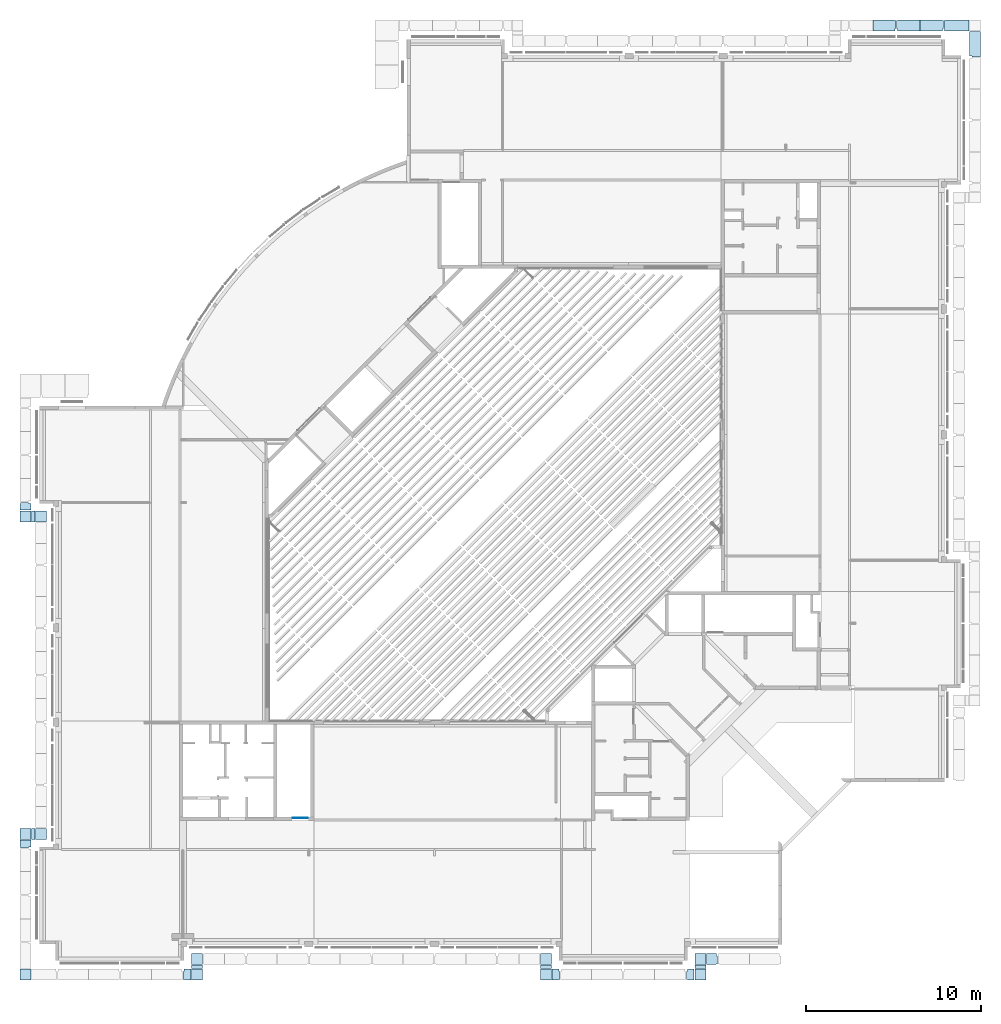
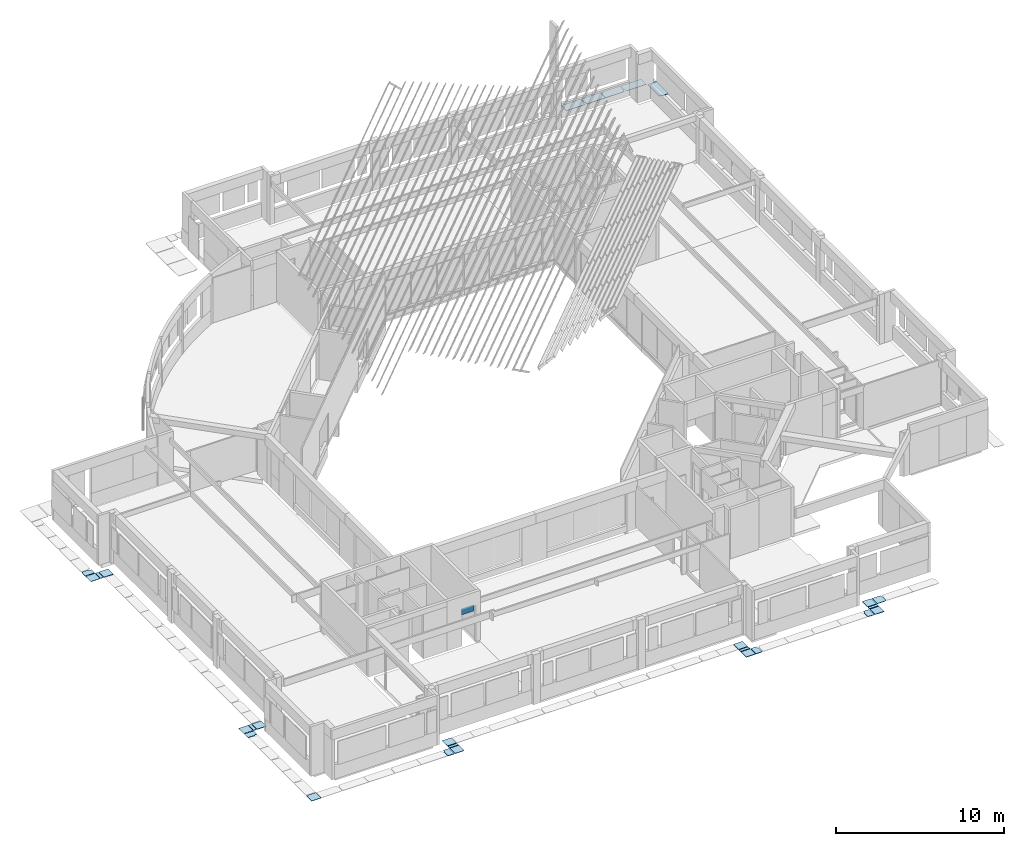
# One storey, part 22 of 37: 27 slabs, 1 plate.
"""IFC4X3_ADD2 building model written with IfcOpenShell, lengths in millimetres."""

import ifcopenshell
import ifcopenshell.guid

model = None  # the IFC model being written
_history = None  # IfcOwnerHistory: only IFC2X3 demands one
_inside = {}  # id of a spatial element -> (the spatial element, [elements in it])
_under = {}  # id of a project, library or spatial element -> (it, [spatial elements below it])
_declared = {}  # id of a project -> (the project, [libraries it declares])
_typed = {}  # id of a type object -> (the type object, [elements of that type])
_made_of = {}  # id of a material, layer set ... -> (it, [elements and type objects made of it])


def new_model(schema):
    """Start an empty IFC model of exactly this schema.

    Asked for "IFC4X3", IfcOpenShell would pick the latest addendum, in which some entities
    have other attributes; the version numbers below select the first issue.
    IFC2X3 requires an IfcOwnerHistory on every rooted entity: one is made here for all.
    """
    global model, _history
    if schema == "IFC4X3":
        model = ifcopenshell.file(schema_version=(4, 3, 0, 0))
    else:
        model = ifcopenshell.file(schema=schema)
    _inside.clear()
    _under.clear()
    _declared.clear()
    _typed.clear()
    _made_of.clear()
    _history = None
    if model.schema == "IFC2X3":
        org = make("IfcOrganization", Name="unknown")
        user = make(
            "IfcPersonAndOrganization",
            ThePerson=make("IfcPerson", FamilyName="unknown"),
            TheOrganization=org,
        )
        app = make(
            "IfcApplication",
            ApplicationDeveloper=org,
            Version="unknown",
            ApplicationFullName="unknown",
            ApplicationIdentifier="unknown",
        )
        _history = make(
            "IfcOwnerHistory",
            OwningUser=user,
            OwningApplication=app,
            ChangeAction="ADDED",
            CreationDate=0,
        )
    return model


def make(cls, **values):
    """One entity of the class cls with the attributes given. An attribute that is None is left unset."""
    return model.create_entity(
        cls, **{name: value for name, value in values.items() if value is not None}
    )


def rooted(cls, **values):
    """An entity with a GlobalId (a new one), such as an element, a storey or a relation."""
    return make(cls, GlobalId=ifcopenshell.guid.new(), OwnerHistory=_history, **values)


def si_unit(unit_type, name, prefix=None):
    """IfcSIUnit, for example si_unit("LENGTHUNIT", "METRE", prefix="MILLI")."""
    return make("IfcSIUnit", UnitType=unit_type, Prefix=prefix, Name=name)


def assignment(units):
    """IfcUnitAssignment: the units of a project."""
    return None if units is None else make("IfcUnitAssignment", Units=units)


def point(xyz):
    """IfcCartesianPoint."""
    return None if xyz is None else make("IfcCartesianPoint", Coordinates=xyz)


def direction(xyz):
    """IfcDirection."""
    return None if xyz is None else make("IfcDirection", DirectionRatios=xyz)


def frame(location, z_axis=None, x_axis=None):
    """IfcAxis2Placement3D, a coordinate frame: its origin and axes. An axis left out is left unset."""
    return make(
        "IfcAxis2Placement3D",
        Location=point(location),
        Axis=direction(z_axis),
        RefDirection=direction(x_axis),
    )


def frame_2d(location, x_axis=None):
    """IfcAxis2Placement2D, a coordinate frame in the plane: its origin and x axis."""
    return make(
        "IfcAxis2Placement2D", Location=point(location), RefDirection=direction(x_axis)
    )


def origin_with_axes():
    """The frame at (0, 0, 0) with the z axis (0, 0, 1) and the x axis (1, 0, 0) written out."""
    return frame((0.0, 0.0, 0.0), z_axis=(0.0, 0.0, 1.0), x_axis=(1.0, 0.0, 0.0))


def origin_2d_with_axis():
    """The frame at (0, 0) in the plane with the x axis (1, 0) written out."""
    return frame_2d((0.0, 0.0), x_axis=(1.0, 0.0))


def place(relative_to, where):
    """IfcLocalPlacement: puts the frame where relative to a parent placement (None: the world)."""
    return make(
        "IfcLocalPlacement", PlacementRelTo=relative_to, RelativePlacement=where
    )


def context(
    kind, dimensions, precision=None, world=None, true_north=None, identifier=None
):
    """IfcGeometricRepresentationContext, for example the 3D "Model" context."""
    return make(
        "IfcGeometricRepresentationContext",
        ContextIdentifier=identifier,
        ContextType=kind,
        CoordinateSpaceDimension=dimensions,
        Precision=precision,
        WorldCoordinateSystem=world,
        TrueNorth=true_north,
    )


def subcontext(parent, identifier, kind, view, scale=None):
    """IfcGeometricRepresentationSubContext, for example "Body" below "Model"."""
    return make(
        "IfcGeometricRepresentationSubContext",
        ContextIdentifier=identifier,
        ContextType=kind,
        ParentContext=parent,
        TargetScale=scale,
        TargetView=view,
    )


def project(units=None, contexts=None):
    """IfcProject with its units and contexts."""
    return rooted(
        "IfcProject",
        Name="project",
        RepresentationContexts=contexts,
        UnitsInContext=assignment(units),
    )


def spatial(cls, under=None, at=None, **own):
    """A site, building, storey or space (cls), placed at a placement, below another one or the project."""
    s = rooted(cls, ObjectPlacement=at, **own)
    if under is not None:
        _under.setdefault(under.id(), (under, []))[1].append(s)
    return s


def polyline(points):
    """IfcPolyline through the points."""
    return make("IfcPolyline", Points=[point(p) for p in points])


def profile(cls, at=None, kind="AREA", **sizes):
    """A parametric profile (cls). Its sizes go by their IFC names, for example OverallWidth=200.0."""
    return make(cls, ProfileType=kind, Position=at, **sizes)


def rectangle(**sizes):
    """IfcRectangleProfileDef."""
    return profile("IfcRectangleProfileDef", **sizes)


def outline(outer, holes=None, kind="AREA"):
    """IfcArbitraryClosedProfileDef: a profile drawn as a closed curve; with holes, ...WithVoids."""
    if holes is None:
        return make("IfcArbitraryClosedProfileDef", ProfileType=kind, OuterCurve=outer)
    return make(
        "IfcArbitraryProfileDefWithVoids",
        ProfileType=kind,
        OuterCurve=outer,
        InnerCurves=holes,
    )


def extrude(swept, where, along, depth):
    """IfcExtrudedAreaSolid: the profile swept, set in the frame where, extruded along a direction by depth."""
    return make(
        "IfcExtrudedAreaSolid",
        SweptArea=swept,
        Position=where,
        ExtrudedDirection=direction(along),
        Depth=depth,
    )


def shape(context_of_items, identifier, shape_type, items):
    """IfcShapeRepresentation: the items that make up one representation, for example the "Body"."""
    return make(
        "IfcShapeRepresentation",
        ContextOfItems=context_of_items,
        RepresentationIdentifier=identifier,
        RepresentationType=shape_type,
        Items=items,
    )


def source(mapping_origin, context_of_items, identifier, shape_type, items):
    """IfcRepresentationMap: a shape defined once, which mapped items show again and again."""
    return make(
        "IfcRepresentationMap",
        MappingOrigin=mapping_origin,
        MappedRepresentation=shape(context_of_items, identifier, shape_type, items),
    )


def transform(
    local_origin,
    x_axis=None,
    y_axis=None,
    z_axis=None,
    scale=None,
    scale2=None,
    scale3=None,
    uniform=True,
):
    """IfcCartesianTransformationOperator3D, or its non-uniform kind. x_axis, y_axis, z_axis: its Axis1, 2, 3."""
    if uniform:
        return make(
            "IfcCartesianTransformationOperator3D",
            Axis1=direction(x_axis),
            Axis2=direction(y_axis),
            LocalOrigin=point(local_origin),
            Scale=scale,
            Axis3=direction(z_axis),
        )
    return make(
        "IfcCartesianTransformationOperator3DnonUniform",
        Axis1=direction(x_axis),
        Axis2=direction(y_axis),
        LocalOrigin=point(local_origin),
        Scale=scale,
        Axis3=direction(z_axis),
        Scale2=scale2,
        Scale3=scale3,
    )


def mapped(mapping_source, mapping_target):
    """IfcMappedItem: shows the shape of a source again, moved by a transform."""
    return make(
        "IfcMappedItem", MappingSource=mapping_source, MappingTarget=mapping_target
    )


def material(Name=None, Category=None):
    """IfcMaterial."""
    return make("IfcMaterial", Name=Name, Category=Category)


def made_of(thing, what):
    """Note that an element or type object is made of a material, layer set ...; save() writes the relation."""
    if what is not None:
        _made_of.setdefault(what.id(), (what, []))[1].append(thing)
    return thing


def type_object(cls, material=None, **own):
    """A type object (cls), such as IfcWallType, which elements share."""
    return made_of(rooted(cls, **own), material)


def element(
    cls,
    number,
    at=None,
    inside=None,
    cuts=None,
    type_object=None,
    material=None,
    context=None,
    identifier="Body",
    shape_type=None,
    held_by="IfcProductDefinitionShape",
    body=None,
    shapes=None,
    **own,
):
    """One element of the class cls, such as IfcWall. Its Tag is "e" and its number.

    at: its placement. inside: the storey or other place that contains it. cuts: it is an
    opening in that element (IfcRelVoidsElement). A single representation is given by context,
    identifier, shape_type and body (its items); several are given by shapes. held_by: the class
    of the entity that holds the representations. save() writes the other relations.
    """
    e = rooted(cls, Tag="e%d" % number, ObjectPlacement=at, **own)
    if body is not None:
        shapes = [shape(context, identifier, shape_type, body)]
    if shapes is not None:
        e.Representation = make(held_by, Representations=shapes)
    if inside is not None:
        _inside.setdefault(inside.id(), (inside, []))[1].append(e)
    if cuts is not None:
        rooted(
            "IfcRelVoidsElement", RelatingBuildingElement=cuts, RelatedOpeningElement=e
        )
    if type_object is not None:
        _typed.setdefault(type_object.id(), (type_object, []))[1].append(e)
    return made_of(e, material)


def aggregate(whole, parts):
    """IfcRelAggregates: a whole, such as a stair, and the parts it consists of."""
    return rooted("IfcRelAggregates", RelatingObject=whole, RelatedObjects=parts)


def save(model, path):
    """Write the relations noted so far, then the file.

    IfcRelAggregates (storeys below a building ...), IfcRelContainedInSpatialStructure (elements
    in a storey), IfcRelDefinesByType, IfcRelAssociatesMaterial and IfcRelDeclares: one each for
    every whole, place, type object, material and project.
    """
    for whole, parts in _under.values():
        aggregate(whole, parts)
    for where, things in _inside.values():
        rooted(
            "IfcRelContainedInSpatialStructure",
            RelatedElements=things,
            RelatingStructure=where,
        )
    for kind, things in _typed.values():
        rooted("IfcRelDefinesByType", RelatedObjects=things, RelatingType=kind)
    for what, things in _made_of.values():
        rooted("IfcRelAssociatesMaterial", RelatedObjects=things, RelatingMaterial=what)
    for by, libraries in _declared.values():
        rooted("IfcRelDeclares", RelatingContext=by, RelatedDefinitions=libraries)
    model.write(path)


model = new_model("IFC4X3_ADD2")

# Units and contexts
model_context = context("Model", 3, precision=1e-05, world=origin_with_axes(), true_north=direction((0.0, 1.0)))
body_context = subcontext(model_context, "Body", "Model", "MODEL_VIEW")
ifc_project = project(units=[si_unit("LENGTHUNIT", "METRE", prefix="MILLI"), si_unit("AREAUNIT", "SQUARE_METRE"), si_unit("VOLUMEUNIT", "CUBIC_METRE"), si_unit("PLANEANGLEUNIT", "RADIAN"), si_unit("TIMEUNIT", "SECOND"), si_unit("MASSUNIT", "GRAM")], contexts=[model_context])

# Site, building, storey
site_placement = place(None, origin_with_axes())
site = spatial("IfcSite", under=ifc_project, at=site_placement, Name="Site", CompositionType="ELEMENT")
building_placement = place(site_placement, origin_with_axes())
building = spatial("IfcBuilding", under=site, at=building_placement, Name="IFC Building Story")
storey_placement = place(building_placement, frame((0.0, 0.0, 3600.0), z_axis=(0.0, 0.0, 1.0), x_axis=(1.0, 0.0, 0.0)))
storey = spatial("IfcBuildingStorey", under=building, at=storey_placement, Name="010", Elevation=3600.0)

# Plate
ifc_material_1 = material(Name="BB_Glas")
shared_shape = source(origin_with_axes(), body_context, "Body", "SweptSolid", [
    extrude(rectangle(XDim=878.000000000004, YDim=454.000000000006, at=origin_2d_with_axis()), frame((0.0, 0.0, -17.0), z_axis=(0.0, 0.0, 1.0), x_axis=(1.0, 0.0, 0.0)), (0.0, 0.0, 1.0), 17.0),
])
plate_placement = place(storey_placement, frame((-36780.0, 7168.0, 2284.0), z_axis=(0.0, 1.0, 0.0), x_axis=(-1.0, 0.0, 0.0)))
element("IfcPlate", 1, at=plate_placement, inside=storey, material=ifc_material_1, Name="BB_10.10_Binnenbeglazing, rechthoekig_GMO:XX_Geen", ObjectType="BB_10.10_Binnenbeglazing, rechthoekig_GMO:XX_Geen", PredefinedType="USERDEFINED", context=body_context, shape_type="MappedRepresentation", body=[
    mapped(shared_shape, transform((0.0, 0.0, 0.0))),
])

# Slabs
ifc_material_2 = material(Name="Steel, Galvanized - looprooster")
slab_type = type_object("IfcSlabType", Name="Steel, Galvanized - looprooster 30", PredefinedType="FLOOR", material=ifc_material_2)
for number, where, z_axis, x_axis, name in (
    (2, (-52819.9983978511, 24100.00160214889, -350.0), (0.0, 0.0, 1.0), (1.0, 0.0, 0.0), "Floor:GVH - Looprooster 30 mm"),
    (3, (-51919.9983978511, 24100.00160214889, -350.0), (0.0, 0.0, 1.0), (1.0, 0.0, 0.0), "Floor:GVH - Looprooster 30 mm"),
    (4, (-52819.99839785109, 5930.001602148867, -350.0), (0.0, 0.0, 1.0), (1.0, 0.0, 0.0), "Floor:GVH - Looprooster 30 mm"),
    (5, (-51919.9983978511, 5930.000450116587, -350.0), (0.0, 0.0, 1.0), (1.0, 0.0, 0.0), "Floor:GVH - Looprooster 30 mm"),
):
    element("IfcSlab", number, at=place(storey_placement, frame(where, z_axis=z_axis, x_axis=x_axis)), inside=storey, type_object=slab_type, Name=name, ObjectType="Floor:GVH - Looprooster 30 mm", PredefinedType="FLOOR", context=body_context, shape_type="SweptSolid", body=[
        extrude(rectangle(XDim=629.9999999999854, YDim=629.9996566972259, at=origin_2d_with_axis()), frame((314.9999999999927, 314.9998283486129, 0.0), z_axis=(0.0, 0.0, 1.0), x_axis=(1.0, 0.0, 0.0)), (0.0, 0.0, 1.0), 30.0),
    ])
slab_1_placement = place(storey_placement, frame((-43000.0001068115, -1219.998397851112, -350.0), z_axis=(0.0, 0.0, 1.0), x_axis=(1.0, 0.0, 0.0)))
element("IfcSlab", 6, at=slab_1_placement, inside=storey, type_object=slab_type, Name="Floor:GVH - Looprooster 30 mm", ObjectType="Floor:GVH - Looprooster 30 mm", PredefinedType="FLOOR", context=body_context, shape_type="SweptSolid", body=[
    extrude(rectangle(XDim=629.9999999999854, YDim=629.9996566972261, at=origin_2d_with_axis()), frame((314.9999999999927, 314.9998283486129, 0.0), z_axis=(0.0, 0.0, 1.0), x_axis=(1.0, 0.0, 0.0)), (0.0, 0.0, 1.0), 30.0),
])
slab_2_placement = place(storey_placement, frame((-42999.40492426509, -2119.998397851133, -350.0), z_axis=(0.0, 0.0, 1.0), x_axis=(1.0, 0.0, 0.0)))
element("IfcSlab", 7, at=slab_2_placement, inside=storey, type_object=slab_type, Name="Floor:GVH - Looprooster 30 mm", ObjectType="Floor:GVH - Looprooster 30 mm", PredefinedType="FLOOR", context=body_context, shape_type="SweptSolid", body=[
    extrude(rectangle(XDim=629.9999999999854, YDim=629.9996566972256, at=origin_2d_with_axis()), frame((314.9999999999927, 314.9998283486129, 0.0), z_axis=(0.0, 0.0, 1.0), x_axis=(1.0, 0.0, 0.0)), (0.0, 0.0, 1.0), 30.0),
])
slab_3_placement = place(storey_placement, frame((-52154.99839785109, 24730.00125884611, -350.0), z_axis=(0.0, 0.0, 1.0), x_axis=(0.0, -1.0, 0.0)))
element("IfcSlab", 8, at=slab_3_placement, inside=storey, type_object=slab_type, Name="Floor:GVH - Looprooster 30 mm", ObjectType="Floor:GVH - Looprooster 30 mm", PredefinedType="FLOOR", context=body_context, shape_type="SweptSolid", body=[
    extrude(rectangle(XDim=629.9996566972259, YDim=199.9999999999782, at=frame_2d((0.0, 0.0), x_axis=(-1.0, 0.0))), frame((314.9998283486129, 99.99999999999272, 0.0), z_axis=(0.0, 0.0, 1.0), x_axis=(1.0, 0.0, 0.0)), (0.0, 0.0, 1.0), 30.0),
])
slab_4_placement = place(storey_placement, frame((-52819.99950666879, 24768.50125884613, -350.0), z_axis=(0.0, 0.0, 1.0), x_axis=(1.0, 0.0, 0.0)))
element("IfcSlab", 9, at=slab_4_placement, inside=storey, type_object=slab_type, Name="Floor:GVH - Looprooster 30 mm", ObjectType="Floor:GVH - Looprooster 30 mm", PredefinedType="FLOOR", context=body_context, shape_type="SweptSolid", body=[
    extrude(outline(polyline([(347.5005750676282, 94.37462711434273), (347.5005750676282, -300.124077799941), (-282.4999850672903, -300.124077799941), (-282.4999850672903, 59.37482357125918), (-267.5011650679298, 59.37482357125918), (-267.5011650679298, 146.3746271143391), (202.500575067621, 146.3746271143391), (202.500575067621, 94.37462711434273), (347.5005750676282, 94.37462711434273)])), frame((282.4999850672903, 300.124077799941, 0.0), z_axis=(0.0, 0.0, 1.0), x_axis=(1.0, 0.0, 0.0)), (0.0, 0.0, 1.0), 30.0),
])
slab_5_placement = place(storey_placement, frame((-52154.99839785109, 6560.001258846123, -350.0), z_axis=(0.0, 0.0, 1.0), x_axis=(0.0, -1.0, 0.0)))
element("IfcSlab", 10, at=slab_5_placement, inside=storey, type_object=slab_type, Name="Floor:GVH - Looprooster 30 mm", ObjectType="Floor:GVH - Looprooster 30 mm", PredefinedType="FLOOR", context=body_context, shape_type="SweptSolid", body=[
    extrude(rectangle(XDim=629.9996566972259, YDim=199.9999999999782, at=frame_2d((0.0, 0.0), x_axis=(-1.0, 0.0))), frame((314.9998283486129, 99.99999999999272, 0.0), z_axis=(0.0, 0.0, 1.0), x_axis=(1.0, 0.0, 0.0)), (0.0, 0.0, 1.0), 30.0),
])
slab_6_placement = place(storey_placement, frame((-43000.00010681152, -1454.99874115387, -350.0), z_axis=(0.0, 0.0, 1.0), x_axis=(1.0, 0.0, 0.0)))
element("IfcSlab", 11, at=slab_6_placement, inside=storey, type_object=slab_type, Name="Floor:GVH - Looprooster 30 mm", ObjectType="Floor:GVH - Looprooster 30 mm", PredefinedType="FLOOR", context=body_context, shape_type="SweptSolid", body=[
    extrude(rectangle(XDim=629.9996566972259, YDim=199.9999999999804, at=origin_2d_with_axis()), frame((314.9998283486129, 99.99999999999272, 0.0), z_axis=(0.0, 0.0, 1.0), x_axis=(1.0, 0.0, 0.0)), (0.0, 0.0, 1.0), 30.0),
])
slab_7_placement = place(storey_placement, frame((-52819.99839785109, -2119.998397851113, -350.0), z_axis=(0.0, 0.0, 1.0), x_axis=(1.0, 0.0, 0.0)))
element("IfcSlab", 12, at=slab_7_placement, inside=storey, type_object=slab_type, Name="Floor:GVH - Looprooster 30 mm", ObjectType="Floor:GVH - Looprooster 30 mm", PredefinedType="FLOOR", context=body_context, shape_type="SweptSolid", body=[
    extrude(rectangle(XDim=629.9999999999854, YDim=629.9996566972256, at=origin_2d_with_axis()), frame((314.9999999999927, 314.9998283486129, 0.0), z_axis=(0.0, 0.0, 1.0), x_axis=(1.0, 0.0, 0.0)), (0.0, 0.0, 1.0), 30.0),
])
slab_8_placement = place(storey_placement, frame((-52819.99839785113, 5444.999963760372, -350.0), z_axis=(0.0, 0.0, 1.0), x_axis=(1.0, 0.0, 0.0)))
element("IfcSlab", 13, at=slab_8_placement, inside=storey, type_object=slab_type, Name="Floor:GVH - Looprooster 30 mm", ObjectType="Floor:GVH - Looprooster 30 mm", PredefinedType="FLOOR", context=body_context, shape_type="SweptSolid", body=[
    extrude(outline(polyline([(-267.5011062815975, -146.3759606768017), (-267.5011062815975, -59.37616094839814), (-282.4988174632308, -59.37616094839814), (-282.4988174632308, 300.1280823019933), (347.5011825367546, 300.1280823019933), (347.5011825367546, -94.37596067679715), (202.4987412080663, -94.37596067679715), (202.4987412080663, -146.3759606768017), (-267.5011062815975, -146.3759606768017)])), frame((282.4988174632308, 146.3759606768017, 0.0), z_axis=(0.0, 0.0, 1.0), x_axis=(1.0, 0.0, 0.0)), (0.0, 0.0, 1.0), 30.0),
])
slab_9_placement = place(storey_placement, frame((-43485.00000000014, -1489.998741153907, -350.0), z_axis=(0.0, 0.0, 1.0), x_axis=(0.0, -1.0, 0.0)))
element("IfcSlab", 14, at=slab_9_placement, inside=storey, type_object=slab_type, Name="Floor:GVH - Looprooster 30 mm", ObjectType="Floor:GVH - Looprooster 30 mm", PredefinedType="FLOOR", context=body_context, shape_type="SweptSolid", body=[
    extrude(outline(polyline([(282.4992180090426, -59.37423989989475), (267.4995613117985, -59.37423989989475), (267.4995613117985, -146.3759851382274), (-202.4983406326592, -146.3759851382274), (-202.4983406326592, -94.37423993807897), (-347.5004386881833, -94.37423993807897), (-347.5004386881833, 300.1244649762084), (282.4992180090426, 300.1244649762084), (282.4992180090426, -59.37423989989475)])), frame((347.5004386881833, 146.3759851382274, 0.0), z_axis=(0.0, 0.0, 1.0), x_axis=(1.0, 0.0, 0.0)), (0.0, 0.0, 1.0), 30.0),
])
slab_10_placement = place(storey_placement, frame((-23029.99954988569, -589.998741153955, -350.0), z_axis=(0.0, 0.0, 1.0), x_axis=(0.0, -1.0, 0.0)))
element("IfcSlab", 15, at=slab_10_placement, inside=storey, type_object=slab_type, Name="Floor:GVH - Looprooster 30 mm", ObjectType="Floor:GVH - Looprooster 30 mm", PredefinedType="FLOOR", context=body_context, shape_type="SweptSolid", body=[
    extrude(rectangle(XDim=629.9996566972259, YDim=629.9996566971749, at=frame_2d((0.0, 0.0), x_axis=(-1.0, 0.0))), frame((314.9998283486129, 314.9998283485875, 0.0), z_axis=(0.0, 0.0, 1.0), x_axis=(1.0, 0.0, 0.0)), (0.0, 0.0, 1.0), 30.0),
])
slab_11_placement = place(storey_placement, frame((-23029.99954988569, -1489.998741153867, -350.0), z_axis=(0.0, 0.0, 1.0), x_axis=(0.0, -1.0, 0.0)))
element("IfcSlab", 16, at=slab_11_placement, inside=storey, type_object=slab_type, Name="Floor:GVH - Looprooster 30 mm", ObjectType="Floor:GVH - Looprooster 30 mm", PredefinedType="FLOOR", context=body_context, shape_type="SweptSolid", body=[
    extrude(rectangle(XDim=629.9996566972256, YDim=629.9996566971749, at=frame_2d((0.0, 0.0), x_axis=(-1.0, 0.0))), frame((314.9998283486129, 314.9998283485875, 0.0), z_axis=(0.0, 0.0, 1.0), x_axis=(1.0, 0.0, 0.0)), (0.0, 0.0, 1.0), 30.0),
])
for number, where, z_axis, x_axis, name in (
    (17, (-23030.00133132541, -1454.99874115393, -350.0), (0.0, 0.0, 1.0), (1.0, 0.0, 0.0), "Floor:GVH - Looprooster 30 mm"),
    (18, (-14200.00010681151, -1454.99874115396, -350.0), (0.0, 0.0, 1.0), (1.0, 0.0, 0.0), "Floor:GVH - Looprooster 30 mm"),
):
    element("IfcSlab", number, at=place(storey_placement, frame(where, z_axis=z_axis, x_axis=x_axis)), inside=storey, type_object=slab_type, Name=name, ObjectType="Floor:GVH - Looprooster 30 mm", PredefinedType="FLOOR", context=body_context, shape_type="SweptSolid", body=[
        extrude(rectangle(XDim=629.9996566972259, YDim=199.9999999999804, at=origin_2d_with_axis()), frame((314.9998283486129, 99.99999999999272, 0.0), z_axis=(0.0, 0.0, 1.0), x_axis=(1.0, 0.0, 0.0)), (0.0, 0.0, 1.0), 30.0),
    ])
slab_12_placement = place(storey_placement, frame((-13531.50010681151, -589.998741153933, -350.0), z_axis=(0.0, 0.0, 1.0), x_axis=(0.0, -1.0, 0.0)))
element("IfcSlab", 19, at=slab_12_placement, inside=storey, type_object=slab_type, Name="Floor:GVH - Looprooster 30 mm", ObjectType="Floor:GVH - Looprooster 30 mm", PredefinedType="FLOOR", context=body_context, shape_type="SweptSolid", body=[
    extrude(outline(polyline([(267.499561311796, 101.8750357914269), (282.499218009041, 101.8750357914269), (282.499218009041, -427.6251072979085), (-347.5004386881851, -427.6251072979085), (-347.5004386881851, 136.8750357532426), (-202.4983406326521, 136.8750357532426), (-202.4983406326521, 188.875035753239), (267.499561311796, 188.875035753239), (267.499561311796, 101.8750357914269)])), frame((347.5004386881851, 427.6251072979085, 0.0), z_axis=(0.0, 0.0, 1.0), x_axis=(1.0, 0.0, 0.0)), (0.0, 0.0, 1.0), 30.0),
])
slab_13_placement = place(storey_placement, frame((-14200.00010681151, -589.998741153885, -350.0), z_axis=(0.0, 0.0, 1.0), x_axis=(0.0, -1.0, 0.0)))
element("IfcSlab", 20, at=slab_13_placement, inside=storey, type_object=slab_type, Name="Floor:GVH - Looprooster 30 mm", ObjectType="Floor:GVH - Looprooster 30 mm", PredefinedType="FLOOR", context=body_context, shape_type="SweptSolid", body=[
    extrude(rectangle(XDim=629.999999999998, YDim=629.9996566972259, at=frame_2d((0.0, 0.0), x_axis=(-1.0, 0.0))), frame((314.9999999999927, 314.9998283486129, 0.0), z_axis=(0.0, 0.0, 1.0), x_axis=(1.0, 0.0, 0.0)), (0.0, 0.0, 1.0), 30.0),
])
slab_14_placement = place(storey_placement, frame((-14200.00010681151, -1489.998741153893, -350.0), z_axis=(0.0, 0.0, 1.0), x_axis=(0.0, -1.0, 0.0)))
element("IfcSlab", 21, at=slab_14_placement, inside=storey, type_object=slab_type, Name="Floor:GVH - Looprooster 30 mm", ObjectType="Floor:GVH - Looprooster 30 mm", PredefinedType="FLOOR", context=body_context, shape_type="SweptSolid", body=[
    extrude(rectangle(XDim=629.9999999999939, YDim=629.9996566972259, at=frame_2d((0.0, 0.0), x_axis=(-1.0, 0.0))), frame((314.9999999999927, 314.9998283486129, 0.0), z_axis=(0.0, 0.0, 1.0), x_axis=(1.0, 0.0, 0.0)), (0.0, 0.0, 1.0), 30.0),
])
slab_15_placement = place(storey_placement, frame((-14684.99996372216, -1489.998741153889, -350.0), z_axis=(0.0, 0.0, 1.0), x_axis=(0.0, -1.0, 0.0)))
element("IfcSlab", 22, at=slab_15_placement, inside=storey, type_object=slab_type, Name="Floor:GVH - Looprooster 30 mm", ObjectType="Floor:GVH - Looprooster 30 mm", PredefinedType="FLOOR", context=body_context, shape_type="SweptSolid", body=[
    extrude(outline(polyline([(282.4994773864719, -59.374676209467), (267.4994773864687, -59.374676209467), (267.4994773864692, -146.3746762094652), (-202.4984321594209, -146.3746762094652), (-202.4984321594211, -94.37467624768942), (-347.5005226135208, -94.37467624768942), (-347.5005226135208, 300.1240286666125), (282.4994773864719, 300.1240286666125), (282.4994773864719, -59.374676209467)])), frame((347.5005226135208, 146.3746762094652, 0.0), z_axis=(0.0, 0.0, 1.0), x_axis=(1.0, 0.0, 0.0)), (0.0, 0.0, 1.0), 30.0),
])
slab_16_placement = place(storey_placement, frame((-22361.49874115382, -1489.998741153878, -350.0), z_axis=(0.0, 0.0, 1.0), x_axis=(0.0, -1.0, 0.0)))
element("IfcSlab", 23, at=slab_16_placement, inside=storey, type_object=slab_type, Name="Floor:GVH - Looprooster 30 mm", ObjectType="Floor:GVH - Looprooster 30 mm", PredefinedType="FLOOR", context=body_context, shape_type="SweptSolid", body=[
    extrude(outline(polyline([(267.4994773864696, 59.374676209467), (282.4994773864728, 59.374676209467), (282.4994773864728, -300.1240286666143), (-347.5005226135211, -300.1240286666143), (-347.5005226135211, 94.37467624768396), (-202.4984321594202, 94.37467624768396), (-202.4984321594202, 146.3746762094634), (267.4994773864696, 146.374676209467), (267.4994773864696, 59.374676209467)])), frame((347.5005226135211, 300.1240286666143, 0.0), z_axis=(0.0, 0.0, 1.0), x_axis=(1.0, 0.0, 0.0)), (0.0, 0.0, 1.0), 30.0),
])
slab_17_placement = place(storey_placement, frame((-4015.00196376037, 52189.99783771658, -350.0), z_axis=(0.0, 0.0, 1.0), x_axis=(1.0, 0.0, 0.0)))
element("IfcSlab", 24, at=slab_17_placement, inside=storey, type_object=slab_type, Name="Floor:GVH - Looprooster 30 mm", ObjectType="Floor:GVH - Looprooster 30 mm", PredefinedType="FLOOR", context=body_context, shape_type="SweptSolid", body=[
    extrude(outline(polyline([(316.5004999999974, -202.4983239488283), (316.5004999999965, -347.5013254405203), (-966.5014999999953, -347.5013254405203), (-966.5014999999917, 282.4986745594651), (281.5005000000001, 282.4986745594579), (281.5005000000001, 267.5009748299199), (368.5004999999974, 267.5009748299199), (368.5004999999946, -202.4983239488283), (316.5004999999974, -202.4983239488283)])), frame((966.5014999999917, 347.5013254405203, 0.0), z_axis=(0.0, 0.0, 1.0), x_axis=(1.0, 0.0, 0.0)), (0.0, 0.0, 1.0), 30.0),
])
slab_18_placement = place(storey_placement, frame((-2649.999963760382, 52189.99783771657, -350.0), z_axis=(0.0, 0.0, 1.0), x_axis=(1.0, 0.0, 0.0)))
element("IfcSlab", 25, at=slab_18_placement, inside=storey, type_object=slab_type, Name="Floor:GVH - Looprooster 30 mm", ObjectType="Floor:GVH - Looprooster 30 mm", PredefinedType="FLOOR", context=body_context, shape_type="SweptSolid", body=[
    extrude(outline(polyline([(-316.5005000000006, -347.5013254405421), (-316.5004999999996, -202.4983239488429), (-368.5004999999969, -202.4983239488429), (-368.5004999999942, 267.5009748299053), (-281.500499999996, 267.5009748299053), (-281.500499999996, 282.4986745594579), (966.5014999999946, 282.4986745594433), (966.5014999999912, -347.5013254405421), (-316.5005000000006, -347.5013254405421)])), frame((368.5004999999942, 347.5013254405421, 0.0), z_axis=(0.0, 0.0, 1.0), x_axis=(1.0, 0.0, 0.0)), (0.0, 0.0, 1.0), 30.0),
])
slab_19_placement = place(storey_placement, frame((-1314.498088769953, 52189.99783771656, -350.0), z_axis=(0.0, 0.0, 1.0), x_axis=(1.0, 0.0, 0.0)))
element("IfcSlab", 26, at=slab_19_placement, inside=storey, type_object=slab_type, Name="Floor:GVH - Looprooster 30 mm", ObjectType="Floor:GVH - Looprooster 30 mm", PredefinedType="FLOOR", context=body_context, shape_type="SweptSolid", body=[
    extrude(outline(polyline([(316.3764811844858, -202.4983239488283), (316.376481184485, -347.5013254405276), (-966.1256438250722, -347.5013254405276), (-966.1256438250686, 282.4986745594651), (281.3726814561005, 282.4986745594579), (281.3726814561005, 267.5009748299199), (368.3764811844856, 267.5009748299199), (368.3764811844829, -202.4983239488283), (316.3764811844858, -202.4983239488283)])), frame((966.1256438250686, 347.5013254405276, 0.0), z_axis=(0.0, 0.0, 1.0), x_axis=(1.0, 0.0, 0.0)), (0.0, 0.0, 1.0), 30.0),
])
slab_20_placement = place(storey_placement, frame((50.00003623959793, 52189.99783771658, -350.0), z_axis=(0.0, 0.0, 1.0), x_axis=(1.0, 0.0, 0.0)))
element("IfcSlab", 27, at=slab_20_placement, inside=storey, type_object=slab_type, Name="Floor:GVH - Looprooster 30 mm", ObjectType="Floor:GVH - Looprooster 30 mm", PredefinedType="FLOOR", context=body_context, shape_type="SweptSolid", body=[
    extrude(outline(polyline([(-341.8774151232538, -347.5013254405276), (-341.8774151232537, -202.4983239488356), (-393.8774151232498, -202.4983239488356), (-393.8774151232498, 267.5009748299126), (-306.8776115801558, 267.5009748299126), (-306.8776115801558, 282.4986745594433), (1042.632441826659, 282.4986745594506), (1042.632441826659, -347.5013254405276), (-341.8774151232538, -347.5013254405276)])), frame((393.8774151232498, 347.5013254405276, 0.0), z_axis=(0.0, 0.0, 1.0), x_axis=(1.0, 0.0, 0.0)), (0.0, 0.0, 1.0), 30.0),
])
slab_21_placement = place(storey_placement, frame((1524.998741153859, 52151.49874115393, -350.0), z_axis=(0.0, 0.0, 1.0), x_axis=(0.0, -1.0, 0.0)))
element("IfcSlab", 28, at=slab_21_placement, inside=storey, type_object=slab_type, Name="Floor:GVH - Looprooster 30 mm", ObjectType="Floor:GVH - Looprooster 30 mm", PredefinedType="FLOOR", context=body_context, shape_type="SweptSolid", body=[
    extrude(outline(polyline([(398.8746943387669, -202.4983463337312), (346.8746943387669, -202.4983463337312), (346.8746943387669, -347.5004367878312), (-1057.624083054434, -347.5004367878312), (-1057.624083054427, 282.4992199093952), (311.874694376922, 282.4992199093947), (311.874694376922, 267.4995632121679), (398.8746943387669, 267.4995632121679), (398.8746943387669, -202.4983463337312)])), frame((1057.624083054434, 347.5004367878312, 0.0), z_axis=(0.0, 0.0, 1.0), x_axis=(1.0, 0.0, 0.0)), (0.0, 0.0, 1.0), 30.0),
])

save(model, "model.ifc")
